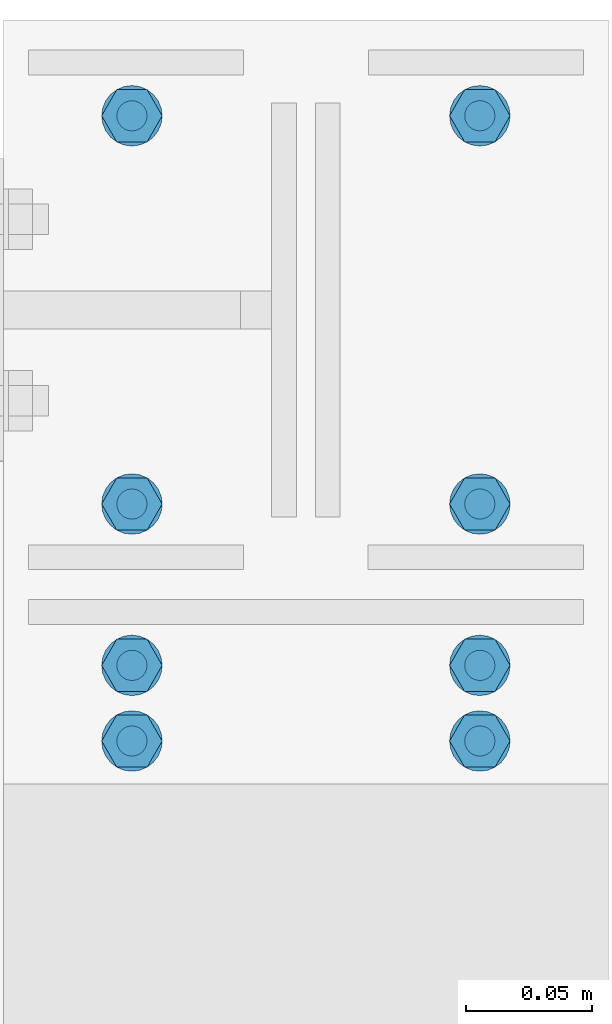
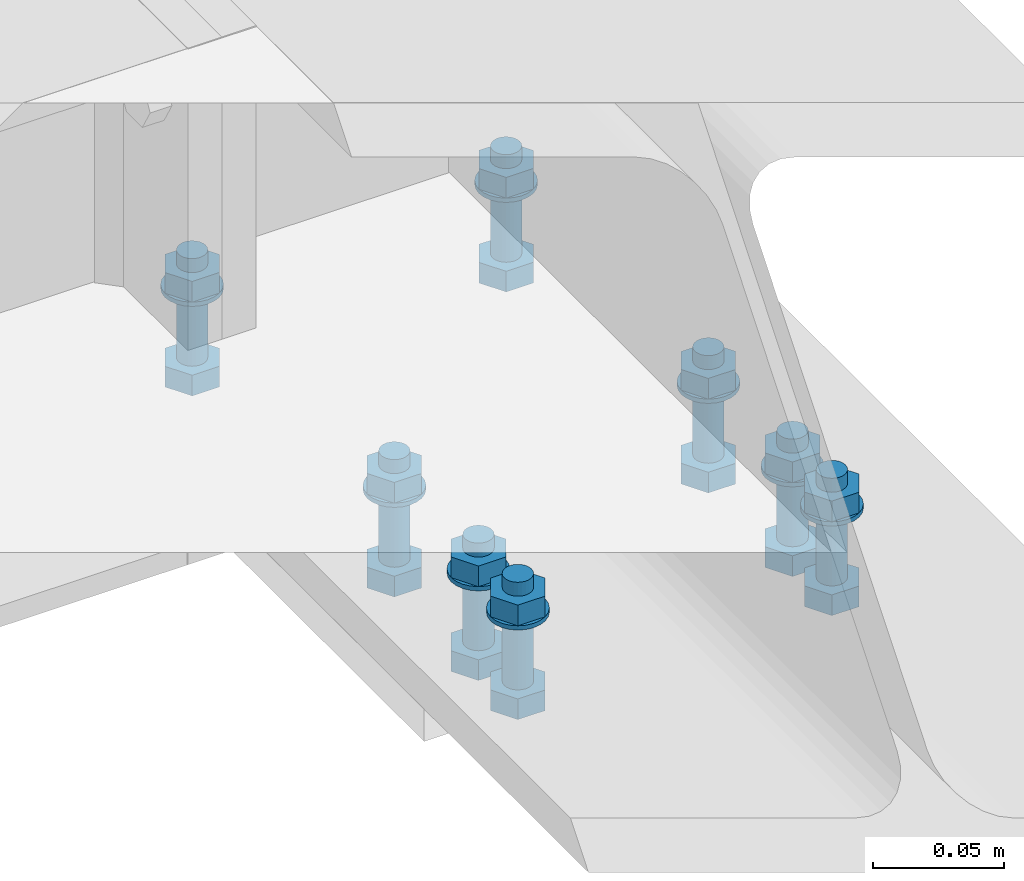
# One storey, part 65 of 66: 32 mechanical fasteners.
"""IFC4 building model written with IfcOpenShell, lengths in metres."""

from ifc_helpers import new_model, si_unit, frame, origin_with_axes, place, context, project, spatial, polyline, outline, extrude, type_object, element, save


model = new_model("IFC4")

# Units and contexts
model_context = context("Model", 3, precision=1e-05, world=origin_with_axes())
ifc_project = project(units=[si_unit("LENGTHUNIT", "METRE"), si_unit("AREAUNIT", "SQUARE_METRE"), si_unit("VOLUMEUNIT", "CUBIC_METRE"), si_unit("MASSUNIT", "GRAM", prefix="KILO"), si_unit("TIMEUNIT", "SECOND"), si_unit("PLANEANGLEUNIT", "RADIAN"), si_unit("SOLIDANGLEUNIT", "STERADIAN"), si_unit("THERMODYNAMICTEMPERATUREUNIT", "DEGREE_CELSIUS")], contexts=[model_context])

# Site, building, storey
placement_1 = place(None, origin_with_axes())
site = spatial("IfcSite", under=ifc_project, at=placement_1, Name="Italia", CompositionType="ELEMENT")
building = spatial("IfcBuilding", under=site, at=placement_1, Name="Uffici", CompositionType="ELEMENT")
storey_placement = place(None, frame((0.0, 0.0, 3.299999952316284), z_axis=(0.0, 0.0, 1.0), x_axis=(1.0, 0.0, 0.0)))
storey = spatial("IfcBuildingStorey", under=building, at=storey_placement, Name="Storey 1", CompositionType="ELEMENT", Elevation=3.299999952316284)

# Mechanical fasteners
mechanical_fastener_type_1 = type_object("IfcMechanicalFastenerType", Name="Collegamenti 0111_0011 0112_0012 0113_0013 0114_0014 0115_0015", PredefinedType="BOLT")
placement_2 = place(placement_1, origin_with_axes())
mechanical_fastener_1_placement = place(placement_2, origin_with_axes())
element("IfcMechanicalFastener", 1, at=mechanical_fastener_1_placement, inside=storey, type_object=mechanical_fastener_type_1, Name="Collegamenti 0111_0011 0112_0012 0113_0013 0114_0014 0115_0015", NominalDiameter=0.0119997, context=model_context, shape_type="SweptSolid", body=[
    extrude(outline(polyline([(0.0, 0.0), (0.0, 0.0120001), (0.0103922, 0.0180006), (0.0207849, 0.0120001), (0.0207849, 0.0), (0.0103922, -0.00599957), (0.0, 0.0)])), frame((14.033, 5.30261, 3.045), z_axis=(0.0, 0.0, -1.0), x_axis=(0.0, 1.0, 0.0)), (0.0, 0.0, 1.0), 0.00959992),
])
mechanical_fastener_type_2 = type_object("IfcMechanicalFastenerType", Name="Collegamenti 0111_0011 0112_0012 0113_0013 0114_0014 0115_0015", PredefinedType="BOLT")
mechanical_fastener_2_placement = place(placement_2, origin_with_axes())
element("IfcMechanicalFastener", 2, at=mechanical_fastener_2_placement, inside=storey, type_object=mechanical_fastener_type_2, Name="Collegamenti 0111_0011 0112_0012 0113_0013 0114_0014 0115_0015", NominalDiameter=0.012, context=model_context, shape_type="SweptSolid", body=[
    extrude(outline(polyline([(0.0, 0.0), (-0.000204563, -0.00155258), (-0.000803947, -0.00300026), (-0.00175762, -0.0042429), (-0.00300026, -0.00519657), (-0.00444698, -0.00579548), (-0.00600004, -0.00599957), (-0.0075531, -0.00579548), (-0.00899982, -0.00519657), (-0.0102425, -0.0042429), (-0.0111961, -0.00300026), (-0.0117955, -0.00155258), (-0.0120001, 0.0), (-0.0117955, 0.00155258), (-0.0111961, 0.00300026), (-0.0102425, 0.0042429), (-0.00899982, 0.00519657), (-0.0075531, 0.00579548), (-0.00600004, 0.00599957), (-0.00444698, 0.00579548), (-0.00300026, 0.00519657), (-0.00175762, 0.0042429), (-0.000803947, 0.00300026), (-0.000204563, 0.00155258), (0.0, 0.0)])), frame((14.039, 5.319, 3.095), z_axis=(0.0, 0.0, -1.0), x_axis=(0.0, 1.0, 0.0)), (0.0, 0.0, 1.0), 0.0500002),
])
mechanical_fastener_type_3 = type_object("IfcMechanicalFastenerType", Name="Collegamenti 0111_0011 0112_0012 0113_0013 0114_0014 0115_0015", PredefinedType="BOLT")
mechanical_fastener_3_placement = place(placement_2, origin_with_axes())
element("IfcMechanicalFastener", 3, at=mechanical_fastener_3_placement, inside=storey, type_object=mechanical_fastener_type_3, Name="Collegamenti 0111_0011 0112_0012 0113_0013 0114_0014 0115_0015", NominalDiameter=0.0119997, context=model_context, shape_type="SweptSolid", body=[
    extrude(outline(polyline([(0.0, 0.0), (0.0, 0.0120001), (0.0103922, 0.0180006), (0.0207849, 0.0120001), (0.0207849, 0.0), (0.0103922, -0.00599957), (0.0, 0.0)])), frame((14.033, 5.30261, 3.0886), z_axis=(0.0, 0.0, -1.0), x_axis=(0.0, 1.0, 0.0)), (0.0, 0.0, 1.0), 0.00959992),
])
mechanical_fastener_type_4 = type_object("IfcMechanicalFastenerType", Name="Collegamenti 0111_0011 0112_0012 0113_0013 0114_0014 0115_0015", PredefinedType="BOLT")
mechanical_fastener_4_placement = place(placement_2, origin_with_axes())
element("IfcMechanicalFastener", 4, at=mechanical_fastener_4_placement, inside=storey, type_object=mechanical_fastener_type_4, Name="Collegamenti 0111_0011 0112_0012 0113_0013 0114_0014 0115_0015", NominalDiameter=0.024, context=model_context, shape_type="SweptSolid", body=[
    extrude(outline(polyline([(0.0, 0.0), (-0.000409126, -0.00310612), (-0.00160789, -0.00599957), (-0.00351477, -0.00848484), (-0.00600004, -0.0103922), (-0.00889444, -0.011591), (-0.0120001, -0.0120001), (-0.0151057, -0.011591), (-0.0180001, -0.0103922), (-0.0204854, -0.00848484), (-0.0223923, -0.00599957), (-0.023591, -0.00310612), (-0.0240002, 0.0), (-0.023591, 0.00310612), (-0.0223923, 0.00599957), (-0.0204854, 0.00848484), (-0.0180001, 0.0103922), (-0.0151057, 0.011591), (-0.0120001, 0.0120001), (-0.00889444, 0.011591), (-0.00600004, 0.0103922), (-0.00351477, 0.00848484), (-0.00160789, 0.00599957), (-0.000409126, 0.00310612), (0.0, 0.0)])), frame((14.039, 5.325, 3.079), z_axis=(0.0, 0.0, -1.0), x_axis=(0.0, 1.0, 0.0)), (0.0, 0.0, 1.0), 0.00200009),
])
mechanical_fastener_type_5 = type_object("IfcMechanicalFastenerType", Name="Collegamenti 0111_0011 0112_0012 0113_0013 0114_0014 0115_0015", PredefinedType="BOLT")
mechanical_fastener_5_placement = place(placement_2, origin_with_axes())
element("IfcMechanicalFastener", 5, at=mechanical_fastener_5_placement, inside=storey, type_object=mechanical_fastener_type_5, Name="Collegamenti 0111_0011 0112_0012 0113_0013 0114_0014 0115_0015", NominalDiameter=0.0119997, context=model_context, shape_type="SweptSolid", body=[
    extrude(outline(polyline([(0.0, 0.0), (0.0, 0.0120001), (0.0103922, 0.0179996), (0.0207849, 0.0120001), (0.0207849, 0.0), (0.0103922, -0.00600052), (0.0, 0.0)])), frame((13.895, 5.30261, 3.045), z_axis=(0.0, 0.0, -1.0), x_axis=(0.0, 1.0, 0.0)), (0.0, 0.0, 1.0), 0.00959992),
])
mechanical_fastener_type_6 = type_object("IfcMechanicalFastenerType", Name="Collegamenti 0111_0011 0112_0012 0113_0013 0114_0014 0115_0015", PredefinedType="BOLT")
mechanical_fastener_6_placement = place(placement_2, origin_with_axes())
element("IfcMechanicalFastener", 6, at=mechanical_fastener_6_placement, inside=storey, type_object=mechanical_fastener_type_6, Name="Collegamenti 0111_0011 0112_0012 0113_0013 0114_0014 0115_0015", NominalDiameter=0.012, context=model_context, shape_type="SweptSolid", body=[
    extrude(outline(polyline([(0.0, 0.0), (-0.000204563, -0.00155258), (-0.000803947, -0.00300026), (-0.00175762, -0.0042429), (-0.00300026, -0.00519657), (-0.00444698, -0.00579548), (-0.00600004, -0.00599957), (-0.0075531, -0.00579548), (-0.00899982, -0.00519657), (-0.0102425, -0.0042429), (-0.0111961, -0.00300026), (-0.0117955, -0.00155258), (-0.0120001, 0.0), (-0.0117955, 0.00155258), (-0.0111961, 0.00300026), (-0.0102425, 0.0042429), (-0.00899982, 0.00519657), (-0.0075531, 0.00579548), (-0.00600004, 0.00599957), (-0.00444698, 0.00579548), (-0.00300026, 0.00519657), (-0.00175762, 0.0042429), (-0.000803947, 0.00300026), (-0.000204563, 0.00155258), (0.0, 0.0)])), frame((13.901, 5.319, 3.095), z_axis=(0.0, 0.0, -1.0), x_axis=(0.0, 1.0, 0.0)), (0.0, 0.0, 1.0), 0.0500002),
])
mechanical_fastener_type_7 = type_object("IfcMechanicalFastenerType", Name="Collegamenti 0111_0011 0112_0012 0113_0013 0114_0014 0115_0015", PredefinedType="BOLT")
mechanical_fastener_7_placement = place(placement_2, origin_with_axes())
element("IfcMechanicalFastener", 7, at=mechanical_fastener_7_placement, inside=storey, type_object=mechanical_fastener_type_7, Name="Collegamenti 0111_0011 0112_0012 0113_0013 0114_0014 0115_0015", NominalDiameter=0.0119997, context=model_context, shape_type="SweptSolid", body=[
    extrude(outline(polyline([(0.0, 0.0), (0.0, 0.0120001), (0.0103922, 0.0179996), (0.0207849, 0.0120001), (0.0207849, 0.0), (0.0103922, -0.00600052), (0.0, 0.0)])), frame((13.895, 5.30261, 3.0886), z_axis=(0.0, 0.0, -1.0), x_axis=(0.0, 1.0, 0.0)), (0.0, 0.0, 1.0), 0.00959992),
])
mechanical_fastener_type_8 = type_object("IfcMechanicalFastenerType", Name="Collegamenti 0111_0011 0112_0012 0113_0013 0114_0014 0115_0015", PredefinedType="BOLT")
mechanical_fastener_8_placement = place(placement_2, origin_with_axes())
element("IfcMechanicalFastener", 8, at=mechanical_fastener_8_placement, inside=storey, type_object=mechanical_fastener_type_8, Name="Collegamenti 0111_0011 0112_0012 0113_0013 0114_0014 0115_0015", NominalDiameter=0.024, context=model_context, shape_type="SweptSolid", body=[
    extrude(outline(polyline([(0.0, 0.0), (-0.000409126, -0.00310612), (-0.00160789, -0.00599957), (-0.00351477, -0.00848484), (-0.00600004, -0.0103922), (-0.00889444, -0.011591), (-0.0120001, -0.0120001), (-0.0151057, -0.011591), (-0.0180001, -0.0103922), (-0.0204854, -0.00848484), (-0.0223923, -0.00599957), (-0.023591, -0.00310612), (-0.0240002, 0.0), (-0.023591, 0.00310612), (-0.0223923, 0.00599957), (-0.0204854, 0.00848484), (-0.0180001, 0.0103922), (-0.0151057, 0.011591), (-0.0120001, 0.0120001), (-0.00889444, 0.011591), (-0.00600004, 0.0103922), (-0.00351477, 0.00848484), (-0.00160789, 0.00599957), (-0.000409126, 0.00310612), (0.0, 0.0)])), frame((13.901, 5.325, 3.079), z_axis=(0.0, 0.0, -1.0), x_axis=(0.0, 1.0, 0.0)), (0.0, 0.0, 1.0), 0.00200009),
])
mechanical_fastener_type_9 = type_object("IfcMechanicalFastenerType", Name="Collegamenti 0111_0011 0112_0012 0113_0013 0114_0014 0115_0015", PredefinedType="BOLT")
mechanical_fastener_9_placement = place(placement_2, origin_with_axes())
element("IfcMechanicalFastener", 9, at=mechanical_fastener_9_placement, inside=storey, type_object=mechanical_fastener_type_9, Name="Collegamenti 0111_0011 0112_0012 0113_0013 0114_0014 0115_0015", NominalDiameter=0.0119997, context=model_context, shape_type="SweptSolid", body=[
    extrude(outline(polyline([(0.0, 0.0), (0.0, 0.0120001), (0.0103927, 0.0180006), (0.0207849, 0.0120001), (0.0207849, 0.0), (0.0103927, -0.00599957), (0.0, 0.0)])), frame((14.033, 5.45661, 3.045), z_axis=(0.0, 0.0, -1.0), x_axis=(0.0, 1.0, 0.0)), (0.0, 0.0, 1.0), 0.00959992),
])
mechanical_fastener_type_10 = type_object("IfcMechanicalFastenerType", Name="Collegamenti 0111_0011 0112_0012 0113_0013 0114_0014 0115_0015", PredefinedType="BOLT")
mechanical_fastener_10_placement = place(placement_2, origin_with_axes())
element("IfcMechanicalFastener", 10, at=mechanical_fastener_10_placement, inside=storey, type_object=mechanical_fastener_type_10, Name="Collegamenti 0111_0011 0112_0012 0113_0013 0114_0014 0115_0015", NominalDiameter=0.012, context=model_context, shape_type="SweptSolid", body=[
    extrude(outline(polyline([(0.0, 0.0), (-0.000204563, -0.00155258), (-0.000803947, -0.00300026), (-0.00175762, -0.0042429), (-0.00300026, -0.00519657), (-0.00444698, -0.00579548), (-0.00600004, -0.00599957), (-0.0075531, -0.00579548), (-0.00899982, -0.00519657), (-0.0102425, -0.0042429), (-0.0111961, -0.00300026), (-0.0117955, -0.00155258), (-0.0120001, 0.0), (-0.0117955, 0.00155258), (-0.0111961, 0.00300026), (-0.0102425, 0.0042429), (-0.00899982, 0.00519657), (-0.0075531, 0.00579548), (-0.00600004, 0.00599957), (-0.00444698, 0.00579548), (-0.00300026, 0.00519657), (-0.00175762, 0.0042429), (-0.000803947, 0.00300026), (-0.000204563, 0.00155258), (0.0, 0.0)])), frame((14.039, 5.473, 3.095), z_axis=(0.0, 0.0, -1.0), x_axis=(0.0, 1.0, 0.0)), (0.0, 0.0, 1.0), 0.0500002),
])
mechanical_fastener_type_11 = type_object("IfcMechanicalFastenerType", Name="Collegamenti 0111_0011 0112_0012 0113_0013 0114_0014 0115_0015", PredefinedType="BOLT")
mechanical_fastener_11_placement = place(placement_2, origin_with_axes())
element("IfcMechanicalFastener", 11, at=mechanical_fastener_11_placement, inside=storey, type_object=mechanical_fastener_type_11, Name="Collegamenti 0111_0011 0112_0012 0113_0013 0114_0014 0115_0015", NominalDiameter=0.0119997, context=model_context, shape_type="SweptSolid", body=[
    extrude(outline(polyline([(0.0, 0.0), (0.0, 0.0120001), (0.0103927, 0.0180006), (0.0207849, 0.0120001), (0.0207849, 0.0), (0.0103927, -0.00599957), (0.0, 0.0)])), frame((14.033, 5.45661, 3.0886), z_axis=(0.0, 0.0, -1.0), x_axis=(0.0, 1.0, 0.0)), (0.0, 0.0, 1.0), 0.00959992),
])
mechanical_fastener_type_12 = type_object("IfcMechanicalFastenerType", Name="Collegamenti 0111_0011 0112_0012 0113_0013 0114_0014 0115_0015", PredefinedType="BOLT")
mechanical_fastener_12_placement = place(placement_2, origin_with_axes())
element("IfcMechanicalFastener", 12, at=mechanical_fastener_12_placement, inside=storey, type_object=mechanical_fastener_type_12, Name="Collegamenti 0111_0011 0112_0012 0113_0013 0114_0014 0115_0015", NominalDiameter=0.024, context=model_context, shape_type="SweptSolid", body=[
    extrude(outline(polyline([(0.0, 0.0), (-0.000409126, -0.00310612), (-0.00160789, -0.00599957), (-0.00351477, -0.00848484), (-0.00600004, -0.0103922), (-0.00889444, -0.011591), (-0.0120001, -0.0120001), (-0.0151057, -0.011591), (-0.0180001, -0.0103922), (-0.0204854, -0.00848484), (-0.0223923, -0.00599957), (-0.023591, -0.00310612), (-0.0240002, 0.0), (-0.023591, 0.00310612), (-0.0223923, 0.00599957), (-0.0204854, 0.00848484), (-0.0180001, 0.0103922), (-0.0151057, 0.011591), (-0.0120001, 0.0120001), (-0.00889444, 0.011591), (-0.00600004, 0.0103922), (-0.00351477, 0.00848484), (-0.00160789, 0.00599957), (-0.000409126, 0.00310612), (0.0, 0.0)])), frame((14.039, 5.479, 3.079), z_axis=(0.0, 0.0, -1.0), x_axis=(0.0, 1.0, 0.0)), (0.0, 0.0, 1.0), 0.00200009),
])
mechanical_fastener_type_13 = type_object("IfcMechanicalFastenerType", Name="Collegamenti 0111_0011 0112_0012 0113_0013 0114_0014 0115_0015", PredefinedType="BOLT")
mechanical_fastener_13_placement = place(placement_2, origin_with_axes())
element("IfcMechanicalFastener", 13, at=mechanical_fastener_13_placement, inside=storey, type_object=mechanical_fastener_type_13, Name="Collegamenti 0111_0011 0112_0012 0113_0013 0114_0014 0115_0015", NominalDiameter=0.0119997, context=model_context, shape_type="SweptSolid", body=[
    extrude(outline(polyline([(0.0, 0.0), (0.0, 0.0120001), (0.0103927, 0.0179996), (0.0207849, 0.0120001), (0.0207849, 0.0), (0.0103927, -0.00600052), (0.0, 0.0)])), frame((13.895, 5.45661, 3.045), z_axis=(0.0, 0.0, -1.0), x_axis=(0.0, 1.0, 0.0)), (0.0, 0.0, 1.0), 0.00959992),
])
mechanical_fastener_type_14 = type_object("IfcMechanicalFastenerType", Name="Collegamenti 0111_0011 0112_0012 0113_0013 0114_0014 0115_0015", PredefinedType="BOLT")
mechanical_fastener_14_placement = place(placement_2, origin_with_axes())
element("IfcMechanicalFastener", 14, at=mechanical_fastener_14_placement, inside=storey, type_object=mechanical_fastener_type_14, Name="Collegamenti 0111_0011 0112_0012 0113_0013 0114_0014 0115_0015", NominalDiameter=0.012, context=model_context, shape_type="SweptSolid", body=[
    extrude(outline(polyline([(0.0, 0.0), (-0.000204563, -0.00155258), (-0.000803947, -0.00300026), (-0.00175762, -0.0042429), (-0.00300026, -0.00519657), (-0.00444698, -0.00579548), (-0.00600004, -0.00599957), (-0.0075531, -0.00579548), (-0.00899982, -0.00519657), (-0.0102425, -0.0042429), (-0.0111961, -0.00300026), (-0.0117955, -0.00155258), (-0.0120001, 0.0), (-0.0117955, 0.00155258), (-0.0111961, 0.00300026), (-0.0102425, 0.0042429), (-0.00899982, 0.00519657), (-0.0075531, 0.00579548), (-0.00600004, 0.00599957), (-0.00444698, 0.00579548), (-0.00300026, 0.00519657), (-0.00175762, 0.0042429), (-0.000803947, 0.00300026), (-0.000204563, 0.00155258), (0.0, 0.0)])), frame((13.901, 5.473, 3.095), z_axis=(0.0, 0.0, -1.0), x_axis=(0.0, 1.0, 0.0)), (0.0, 0.0, 1.0), 0.0500002),
])
mechanical_fastener_type_15 = type_object("IfcMechanicalFastenerType", Name="Collegamenti 0111_0011 0112_0012 0113_0013 0114_0014 0115_0015", PredefinedType="BOLT")
mechanical_fastener_15_placement = place(placement_2, origin_with_axes())
element("IfcMechanicalFastener", 15, at=mechanical_fastener_15_placement, inside=storey, type_object=mechanical_fastener_type_15, Name="Collegamenti 0111_0011 0112_0012 0113_0013 0114_0014 0115_0015", NominalDiameter=0.0119997, context=model_context, shape_type="SweptSolid", body=[
    extrude(outline(polyline([(0.0, 0.0), (0.0, 0.0120001), (0.0103927, 0.0179996), (0.0207849, 0.0120001), (0.0207849, 0.0), (0.0103927, -0.00600052), (0.0, 0.0)])), frame((13.895, 5.45661, 3.0886), z_axis=(0.0, 0.0, -1.0), x_axis=(0.0, 1.0, 0.0)), (0.0, 0.0, 1.0), 0.00959992),
])
mechanical_fastener_type_16 = type_object("IfcMechanicalFastenerType", Name="Collegamenti 0111_0011 0112_0012 0113_0013 0114_0014 0115_0015", PredefinedType="BOLT")
mechanical_fastener_16_placement = place(placement_2, origin_with_axes())
element("IfcMechanicalFastener", 16, at=mechanical_fastener_16_placement, inside=storey, type_object=mechanical_fastener_type_16, Name="Collegamenti 0111_0011 0112_0012 0113_0013 0114_0014 0115_0015", NominalDiameter=0.024, context=model_context, shape_type="SweptSolid", body=[
    extrude(outline(polyline([(0.0, 0.0), (-0.000409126, -0.00310612), (-0.00160789, -0.00599957), (-0.00351477, -0.00848484), (-0.00600004, -0.0103922), (-0.00889444, -0.011591), (-0.0120001, -0.0120001), (-0.0151057, -0.011591), (-0.0180001, -0.0103922), (-0.0204854, -0.00848484), (-0.0223923, -0.00599957), (-0.023591, -0.00310612), (-0.0240002, 0.0), (-0.023591, 0.00310612), (-0.0223923, 0.00599957), (-0.0204854, 0.00848484), (-0.0180001, 0.0103922), (-0.0151057, 0.011591), (-0.0120001, 0.0120001), (-0.00889444, 0.011591), (-0.00600004, 0.0103922), (-0.00351477, 0.00848484), (-0.00160789, 0.00599957), (-0.000409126, 0.00310612), (0.0, 0.0)])), frame((13.901, 5.479, 3.079), z_axis=(0.0, 0.0, -1.0), x_axis=(0.0, 1.0, 0.0)), (0.0, 0.0, 1.0), 0.00200009),
])
mechanical_fastener_type_17 = type_object("IfcMechanicalFastenerType", Name="Collegamenti 0111_0011 0112_0012 0113_0013 0114_0014 0115_0015", PredefinedType="BOLT")
mechanical_fastener_17_placement = place(placement_2, origin_with_axes())
element("IfcMechanicalFastener", 17, at=mechanical_fastener_17_placement, inside=storey, type_object=mechanical_fastener_type_17, Name="Collegamenti 0111_0011 0112_0012 0113_0013 0114_0014 0115_0015", NominalDiameter=0.0119997, context=model_context, shape_type="SweptSolid", body=[
    extrude(outline(polyline([(0.0, 0.0), (0.0, 0.0120001), (0.0103922, 0.0180006), (0.0207844, 0.0120001), (0.0207844, 0.0), (0.0103922, -0.00599957), (0.0, 0.0)])), frame((14.033, 5.20861, 3.045), z_axis=(0.0, 0.0, -1.0), x_axis=(0.0, 1.0, 0.0)), (0.0, 0.0, 1.0), 0.00959992),
])
mechanical_fastener_type_18 = type_object("IfcMechanicalFastenerType", Name="Collegamenti 0111_0011 0112_0012 0113_0013 0114_0014 0115_0015", PredefinedType="BOLT")
mechanical_fastener_18_placement = place(placement_2, origin_with_axes())
element("IfcMechanicalFastener", 18, at=mechanical_fastener_18_placement, inside=storey, type_object=mechanical_fastener_type_18, Name="Collegamenti 0111_0011 0112_0012 0113_0013 0114_0014 0115_0015", NominalDiameter=0.012, context=model_context, shape_type="SweptSolid", body=[
    extrude(outline(polyline([(0.0, 0.0), (-0.000204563, -0.00155258), (-0.000803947, -0.00300026), (-0.00175762, -0.0042429), (-0.00300026, -0.00519657), (-0.00444698, -0.00579548), (-0.00600004, -0.00599957), (-0.0075531, -0.00579548), (-0.00899982, -0.00519657), (-0.0102425, -0.0042429), (-0.0111961, -0.00300026), (-0.0117955, -0.00155258), (-0.0120001, 0.0), (-0.0117955, 0.00155258), (-0.0111961, 0.00300026), (-0.0102425, 0.0042429), (-0.00899982, 0.00519657), (-0.0075531, 0.00579548), (-0.00600004, 0.00599957), (-0.00444698, 0.00579548), (-0.00300026, 0.00519657), (-0.00175762, 0.0042429), (-0.000803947, 0.00300026), (-0.000204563, 0.00155258), (0.0, 0.0)])), frame((14.039, 5.225, 3.095), z_axis=(0.0, 0.0, -1.0), x_axis=(0.0, 1.0, 0.0)), (0.0, 0.0, 1.0), 0.0500002),
])
mechanical_fastener_type_19 = type_object("IfcMechanicalFastenerType", Name="Collegamenti 0111_0011 0112_0012 0113_0013 0114_0014 0115_0015", PredefinedType="BOLT")
mechanical_fastener_19_placement = place(placement_2, origin_with_axes())
element("IfcMechanicalFastener", 19, at=mechanical_fastener_19_placement, inside=storey, type_object=mechanical_fastener_type_19, Name="Collegamenti 0111_0011 0112_0012 0113_0013 0114_0014 0115_0015", NominalDiameter=0.0119997, context=model_context, shape_type="SweptSolid", body=[
    extrude(outline(polyline([(0.0, 0.0), (0.0, 0.0120001), (0.0103922, 0.0180006), (0.0207844, 0.0120001), (0.0207844, 0.0), (0.0103922, -0.00599957), (0.0, 0.0)])), frame((14.033, 5.20861, 3.0886), z_axis=(0.0, 0.0, -1.0), x_axis=(0.0, 1.0, 0.0)), (0.0, 0.0, 1.0), 0.00959992),
])
mechanical_fastener_type_20 = type_object("IfcMechanicalFastenerType", Name="Collegamenti 0111_0011 0112_0012 0113_0013 0114_0014 0115_0015", PredefinedType="BOLT")
mechanical_fastener_20_placement = place(placement_2, origin_with_axes())
element("IfcMechanicalFastener", 20, at=mechanical_fastener_20_placement, inside=storey, type_object=mechanical_fastener_type_20, Name="Collegamenti 0111_0011 0112_0012 0113_0013 0114_0014 0115_0015", NominalDiameter=0.024, context=model_context, shape_type="SweptSolid", body=[
    extrude(outline(polyline([(0.0, 0.0), (-0.000409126, -0.00310612), (-0.00160789, -0.00599957), (-0.00351477, -0.00848484), (-0.00600004, -0.0103922), (-0.00889444, -0.011591), (-0.0120001, -0.0120001), (-0.0151057, -0.011591), (-0.0180001, -0.0103922), (-0.0204854, -0.00848484), (-0.0223923, -0.00599957), (-0.023591, -0.00310612), (-0.0240002, 0.0), (-0.023591, 0.00310612), (-0.0223923, 0.00599957), (-0.0204854, 0.00848484), (-0.0180001, 0.0103922), (-0.0151057, 0.011591), (-0.0120001, 0.0120001), (-0.00889444, 0.011591), (-0.00600004, 0.0103922), (-0.00351477, 0.00848484), (-0.00160789, 0.00599957), (-0.000409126, 0.00310612), (0.0, 0.0)])), frame((14.039, 5.231, 3.079), z_axis=(0.0, 0.0, -1.0), x_axis=(0.0, 1.0, 0.0)), (0.0, 0.0, 1.0), 0.00200009),
])
mechanical_fastener_type_21 = type_object("IfcMechanicalFastenerType", Name="Collegamenti 0111_0011 0112_0012 0113_0013 0114_0014 0115_0015", PredefinedType="BOLT")
mechanical_fastener_21_placement = place(placement_2, origin_with_axes())
element("IfcMechanicalFastener", 21, at=mechanical_fastener_21_placement, inside=storey, type_object=mechanical_fastener_type_21, Name="Collegamenti 0111_0011 0112_0012 0113_0013 0114_0014 0115_0015", NominalDiameter=0.0119997, context=model_context, shape_type="SweptSolid", body=[
    extrude(outline(polyline([(0.0, 0.0), (0.0, 0.0120001), (0.0103922, 0.0179996), (0.0207844, 0.0120001), (0.0207844, 0.0), (0.0103922, -0.00600052), (0.0, 0.0)])), frame((13.895, 5.20861, 3.045), z_axis=(0.0, 0.0, -1.0), x_axis=(0.0, 1.0, 0.0)), (0.0, 0.0, 1.0), 0.00959992),
])
mechanical_fastener_type_22 = type_object("IfcMechanicalFastenerType", Name="Collegamenti 0111_0011 0112_0012 0113_0013 0114_0014 0115_0015", PredefinedType="BOLT")
mechanical_fastener_22_placement = place(placement_2, origin_with_axes())
element("IfcMechanicalFastener", 22, at=mechanical_fastener_22_placement, inside=storey, type_object=mechanical_fastener_type_22, Name="Collegamenti 0111_0011 0112_0012 0113_0013 0114_0014 0115_0015", NominalDiameter=0.012, context=model_context, shape_type="SweptSolid", body=[
    extrude(outline(polyline([(0.0, 0.0), (-0.000204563, -0.00155258), (-0.000803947, -0.00300026), (-0.00175762, -0.0042429), (-0.00300026, -0.00519657), (-0.00444698, -0.00579548), (-0.00600004, -0.00599957), (-0.0075531, -0.00579548), (-0.00899982, -0.00519657), (-0.0102425, -0.0042429), (-0.0111961, -0.00300026), (-0.0117955, -0.00155258), (-0.0120001, 0.0), (-0.0117955, 0.00155258), (-0.0111961, 0.00300026), (-0.0102425, 0.0042429), (-0.00899982, 0.00519657), (-0.0075531, 0.00579548), (-0.00600004, 0.00599957), (-0.00444698, 0.00579548), (-0.00300026, 0.00519657), (-0.00175762, 0.0042429), (-0.000803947, 0.00300026), (-0.000204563, 0.00155258), (0.0, 0.0)])), frame((13.901, 5.225, 3.095), z_axis=(0.0, 0.0, -1.0), x_axis=(0.0, 1.0, 0.0)), (0.0, 0.0, 1.0), 0.0500002),
])
mechanical_fastener_type_23 = type_object("IfcMechanicalFastenerType", Name="Collegamenti 0111_0011 0112_0012 0113_0013 0114_0014 0115_0015", PredefinedType="BOLT")
mechanical_fastener_23_placement = place(placement_2, origin_with_axes())
element("IfcMechanicalFastener", 23, at=mechanical_fastener_23_placement, inside=storey, type_object=mechanical_fastener_type_23, Name="Collegamenti 0111_0011 0112_0012 0113_0013 0114_0014 0115_0015", NominalDiameter=0.0119997, context=model_context, shape_type="SweptSolid", body=[
    extrude(outline(polyline([(0.0, 0.0), (0.0, 0.0120001), (0.0103922, 0.0179996), (0.0207844, 0.0120001), (0.0207844, 0.0), (0.0103922, -0.00600052), (0.0, 0.0)])), frame((13.895, 5.20861, 3.0886), z_axis=(0.0, 0.0, -1.0), x_axis=(0.0, 1.0, 0.0)), (0.0, 0.0, 1.0), 0.00959992),
])
mechanical_fastener_type_24 = type_object("IfcMechanicalFastenerType", Name="Collegamenti 0111_0011 0112_0012 0113_0013 0114_0014 0115_0015", PredefinedType="BOLT")
mechanical_fastener_24_placement = place(placement_2, origin_with_axes())
element("IfcMechanicalFastener", 24, at=mechanical_fastener_24_placement, inside=storey, type_object=mechanical_fastener_type_24, Name="Collegamenti 0111_0011 0112_0012 0113_0013 0114_0014 0115_0015", NominalDiameter=0.024, context=model_context, shape_type="SweptSolid", body=[
    extrude(outline(polyline([(0.0, 0.0), (-0.000409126, -0.00310612), (-0.00160789, -0.00599957), (-0.00351477, -0.00848484), (-0.00600004, -0.0103922), (-0.00889444, -0.011591), (-0.0120001, -0.0120001), (-0.0151057, -0.011591), (-0.0180001, -0.0103922), (-0.0204854, -0.00848484), (-0.0223923, -0.00599957), (-0.023591, -0.00310612), (-0.0240002, 0.0), (-0.023591, 0.00310612), (-0.0223923, 0.00599957), (-0.0204854, 0.00848484), (-0.0180001, 0.0103922), (-0.0151057, 0.011591), (-0.0120001, 0.0120001), (-0.00889444, 0.011591), (-0.00600004, 0.0103922), (-0.00351477, 0.00848484), (-0.00160789, 0.00599957), (-0.000409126, 0.00310612), (0.0, 0.0)])), frame((13.901, 5.231, 3.079), z_axis=(0.0, 0.0, -1.0), x_axis=(0.0, 1.0, 0.0)), (0.0, 0.0, 1.0), 0.00200009),
])
mechanical_fastener_type_25 = type_object("IfcMechanicalFastenerType", Name="Collegamenti 0111_0011 0112_0012 0113_0013 0114_0014 0115_0015", PredefinedType="BOLT")
mechanical_fastener_25_placement = place(placement_2, origin_with_axes())
element("IfcMechanicalFastener", 25, at=mechanical_fastener_25_placement, inside=storey, type_object=mechanical_fastener_type_25, Name="Collegamenti 0111_0011 0112_0012 0113_0013 0114_0014 0115_0015", NominalDiameter=0.0119997, context=model_context, shape_type="SweptSolid", body=[
    extrude(outline(polyline([(0.0, 0.0), (0.0, 0.0120001), (0.0103927, 0.0180006), (0.0207849, 0.0120001), (0.0207849, 0.0), (0.0103927, -0.00599957), (0.0, 0.0)])), frame((14.033, 5.23861, 3.045), z_axis=(0.0, 0.0, -1.0), x_axis=(0.0, 1.0, 0.0)), (0.0, 0.0, 1.0), 0.00959992),
])
mechanical_fastener_type_26 = type_object("IfcMechanicalFastenerType", Name="Collegamenti 0111_0011 0112_0012 0113_0013 0114_0014 0115_0015", PredefinedType="BOLT")
mechanical_fastener_26_placement = place(placement_2, origin_with_axes())
element("IfcMechanicalFastener", 26, at=mechanical_fastener_26_placement, inside=storey, type_object=mechanical_fastener_type_26, Name="Collegamenti 0111_0011 0112_0012 0113_0013 0114_0014 0115_0015", NominalDiameter=0.012, context=model_context, shape_type="SweptSolid", body=[
    extrude(outline(polyline([(0.0, 0.0), (-0.000204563, -0.00155258), (-0.000803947, -0.00300026), (-0.00175762, -0.0042429), (-0.00300026, -0.00519657), (-0.00444698, -0.00579548), (-0.00600004, -0.00599957), (-0.0075531, -0.00579548), (-0.00899982, -0.00519657), (-0.0102425, -0.0042429), (-0.0111961, -0.00300026), (-0.0117955, -0.00155258), (-0.0120001, 0.0), (-0.0117955, 0.00155258), (-0.0111961, 0.00300026), (-0.0102425, 0.0042429), (-0.00899982, 0.00519657), (-0.0075531, 0.00579548), (-0.00600004, 0.00599957), (-0.00444698, 0.00579548), (-0.00300026, 0.00519657), (-0.00175762, 0.0042429), (-0.000803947, 0.00300026), (-0.000204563, 0.00155258), (0.0, 0.0)])), frame((14.039, 5.255, 3.095), z_axis=(0.0, 0.0, -1.0), x_axis=(0.0, 1.0, 0.0)), (0.0, 0.0, 1.0), 0.0500002),
])
mechanical_fastener_type_27 = type_object("IfcMechanicalFastenerType", Name="Collegamenti 0111_0011 0112_0012 0113_0013 0114_0014 0115_0015", PredefinedType="BOLT")
mechanical_fastener_27_placement = place(placement_2, origin_with_axes())
element("IfcMechanicalFastener", 27, at=mechanical_fastener_27_placement, inside=storey, type_object=mechanical_fastener_type_27, Name="Collegamenti 0111_0011 0112_0012 0113_0013 0114_0014 0115_0015", NominalDiameter=0.0119997, context=model_context, shape_type="SweptSolid", body=[
    extrude(outline(polyline([(0.0, 0.0), (0.0, 0.0120001), (0.0103927, 0.0180006), (0.0207849, 0.0120001), (0.0207849, 0.0), (0.0103927, -0.00599957), (0.0, 0.0)])), frame((14.033, 5.23861, 3.0886), z_axis=(0.0, 0.0, -1.0), x_axis=(0.0, 1.0, 0.0)), (0.0, 0.0, 1.0), 0.00959992),
])
mechanical_fastener_type_28 = type_object("IfcMechanicalFastenerType", Name="Collegamenti 0111_0011 0112_0012 0113_0013 0114_0014 0115_0015", PredefinedType="BOLT")
mechanical_fastener_28_placement = place(placement_2, origin_with_axes())
element("IfcMechanicalFastener", 28, at=mechanical_fastener_28_placement, inside=storey, type_object=mechanical_fastener_type_28, Name="Collegamenti 0111_0011 0112_0012 0113_0013 0114_0014 0115_0015", NominalDiameter=0.024, context=model_context, shape_type="SweptSolid", body=[
    extrude(outline(polyline([(0.0, 0.0), (-0.000409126, -0.00310612), (-0.00160789, -0.00599957), (-0.00351477, -0.00848484), (-0.00600004, -0.0103922), (-0.00889444, -0.011591), (-0.0120001, -0.0120001), (-0.0151057, -0.011591), (-0.0180001, -0.0103922), (-0.0204854, -0.00848484), (-0.0223923, -0.00599957), (-0.023591, -0.00310612), (-0.0240002, 0.0), (-0.023591, 0.00310612), (-0.0223923, 0.00599957), (-0.0204854, 0.00848484), (-0.0180001, 0.0103922), (-0.0151057, 0.011591), (-0.0120001, 0.0120001), (-0.00889444, 0.011591), (-0.00600004, 0.0103922), (-0.00351477, 0.00848484), (-0.00160789, 0.00599957), (-0.000409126, 0.00310612), (0.0, 0.0)])), frame((14.039, 5.261, 3.079), z_axis=(0.0, 0.0, -1.0), x_axis=(0.0, 1.0, 0.0)), (0.0, 0.0, 1.0), 0.00200009),
])
mechanical_fastener_type_29 = type_object("IfcMechanicalFastenerType", Name="Collegamenti 0111_0011 0112_0012 0113_0013 0114_0014 0115_0015", PredefinedType="BOLT")
mechanical_fastener_29_placement = place(placement_2, origin_with_axes())
element("IfcMechanicalFastener", 29, at=mechanical_fastener_29_placement, inside=storey, type_object=mechanical_fastener_type_29, Name="Collegamenti 0111_0011 0112_0012 0113_0013 0114_0014 0115_0015", NominalDiameter=0.0119997, context=model_context, shape_type="SweptSolid", body=[
    extrude(outline(polyline([(0.0, 0.0), (0.0, 0.0120001), (0.0103927, 0.0179996), (0.0207849, 0.0120001), (0.0207849, 0.0), (0.0103927, -0.00600052), (0.0, 0.0)])), frame((13.895, 5.23861, 3.045), z_axis=(0.0, 0.0, -1.0), x_axis=(0.0, 1.0, 0.0)), (0.0, 0.0, 1.0), 0.00959992),
])
mechanical_fastener_type_30 = type_object("IfcMechanicalFastenerType", Name="Collegamenti 0111_0011 0112_0012 0113_0013 0114_0014 0115_0015", PredefinedType="BOLT")
mechanical_fastener_30_placement = place(placement_2, origin_with_axes())
element("IfcMechanicalFastener", 30, at=mechanical_fastener_30_placement, inside=storey, type_object=mechanical_fastener_type_30, Name="Collegamenti 0111_0011 0112_0012 0113_0013 0114_0014 0115_0015", NominalDiameter=0.012, context=model_context, shape_type="SweptSolid", body=[
    extrude(outline(polyline([(0.0, 0.0), (-0.000204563, -0.00155258), (-0.000803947, -0.00300026), (-0.00175762, -0.0042429), (-0.00300026, -0.00519657), (-0.00444698, -0.00579548), (-0.00600004, -0.00599957), (-0.0075531, -0.00579548), (-0.00899982, -0.00519657), (-0.0102425, -0.0042429), (-0.0111961, -0.00300026), (-0.0117955, -0.00155258), (-0.0120001, 0.0), (-0.0117955, 0.00155258), (-0.0111961, 0.00300026), (-0.0102425, 0.0042429), (-0.00899982, 0.00519657), (-0.0075531, 0.00579548), (-0.00600004, 0.00599957), (-0.00444698, 0.00579548), (-0.00300026, 0.00519657), (-0.00175762, 0.0042429), (-0.000803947, 0.00300026), (-0.000204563, 0.00155258), (0.0, 0.0)])), frame((13.901, 5.255, 3.095), z_axis=(0.0, 0.0, -1.0), x_axis=(0.0, 1.0, 0.0)), (0.0, 0.0, 1.0), 0.0500002),
])
mechanical_fastener_type_31 = type_object("IfcMechanicalFastenerType", Name="Collegamenti 0111_0011 0112_0012 0113_0013 0114_0014 0115_0015", PredefinedType="BOLT")
mechanical_fastener_31_placement = place(placement_2, origin_with_axes())
element("IfcMechanicalFastener", 31, at=mechanical_fastener_31_placement, inside=storey, type_object=mechanical_fastener_type_31, Name="Collegamenti 0111_0011 0112_0012 0113_0013 0114_0014 0115_0015", NominalDiameter=0.0119997, context=model_context, shape_type="SweptSolid", body=[
    extrude(outline(polyline([(0.0, 0.0), (0.0, 0.0120001), (0.0103927, 0.0179996), (0.0207849, 0.0120001), (0.0207849, 0.0), (0.0103927, -0.00600052), (0.0, 0.0)])), frame((13.895, 5.23861, 3.0886), z_axis=(0.0, 0.0, -1.0), x_axis=(0.0, 1.0, 0.0)), (0.0, 0.0, 1.0), 0.00959992),
])
mechanical_fastener_type_32 = type_object("IfcMechanicalFastenerType", Name="Collegamenti 0111_0011 0112_0012 0113_0013 0114_0014 0115_0015", PredefinedType="BOLT")
mechanical_fastener_32_placement = place(placement_2, origin_with_axes())
element("IfcMechanicalFastener", 32, at=mechanical_fastener_32_placement, inside=storey, type_object=mechanical_fastener_type_32, Name="Collegamenti 0111_0011 0112_0012 0113_0013 0114_0014 0115_0015", NominalDiameter=0.024, context=model_context, shape_type="SweptSolid", body=[
    extrude(outline(polyline([(0.0, 0.0), (-0.000409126, -0.00310612), (-0.00160789, -0.00599957), (-0.00351477, -0.00848484), (-0.00600004, -0.0103922), (-0.00889444, -0.011591), (-0.0120001, -0.0120001), (-0.0151057, -0.011591), (-0.0180001, -0.0103922), (-0.0204854, -0.00848484), (-0.0223923, -0.00599957), (-0.023591, -0.00310612), (-0.0240002, 0.0), (-0.023591, 0.00310612), (-0.0223923, 0.00599957), (-0.0204854, 0.00848484), (-0.0180001, 0.0103922), (-0.0151057, 0.011591), (-0.0120001, 0.0120001), (-0.00889444, 0.011591), (-0.00600004, 0.0103922), (-0.00351477, 0.00848484), (-0.00160789, 0.00599957), (-0.000409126, 0.00310612), (0.0, 0.0)])), frame((13.901, 5.261, 3.079), z_axis=(0.0, 0.0, -1.0), x_axis=(0.0, 1.0, 0.0)), (0.0, 0.0, 1.0), 0.00200009),
])

save(model, "model.ifc")
